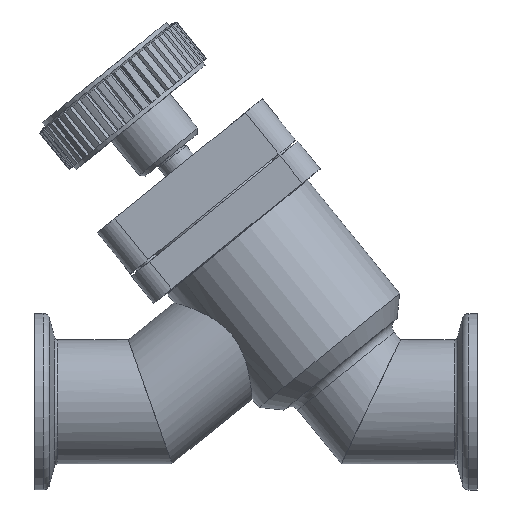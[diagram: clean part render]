
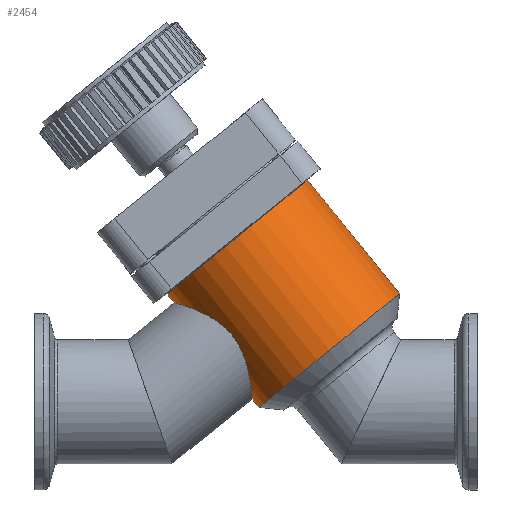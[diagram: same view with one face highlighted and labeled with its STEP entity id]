
A CAD part, top view. The second image highlights one B-rep face of the part: STEP entity #2454.
In plain terms, the highlighted cylindrical face has radius 20.45 mm (diameter 40.9 mm), a full revolution.
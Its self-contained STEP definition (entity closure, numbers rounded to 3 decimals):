
#1638=FACE_BOUND('',#3364,.T.);
#1639=FACE_BOUND('',#3365,.T.);
#1640=FACE_BOUND('',#3366,.T.);
#2109=B_SPLINE_CURVE_WITH_KNOTS('',3,(#13145,#13146,#13147,#13148,#13149,
#13150,#13151,#13152,#13153,#13154,#13155,#13156,#13157,#13158,#13159,#13160,
#13161,#13162,#13163,#13164,#13165,#13166),.UNSPECIFIED.,.T.,.F.,(2,2,2,
2,2,2,2,2,2,2,2,2,2),(-0.062,0.,0.125,0.25,0.313,0.375,0.5,
0.625,0.75,0.875,0.938,1.,1.125),.UNSPECIFIED.);
#2454=ADVANCED_FACE('',(#1638,#1639,#1640),#2627,.T.);
#2627=CYLINDRICAL_SURFACE('',#8746,20.45);
#3364=EDGE_LOOP('',(#5442));
#3365=EDGE_LOOP('',(#5443));
#3366=EDGE_LOOP('',(#5444));
#3749=CIRCLE('',#8744,20.45);
#3750=CIRCLE('',#8745,20.45);
#5442=ORIENTED_EDGE('',*,*,#7148,.F.);
#5443=ORIENTED_EDGE('',*,*,#7149,.T.);
#5444=ORIENTED_EDGE('',*,*,#7150,.F.);
#6242=VERTEX_POINT('',#13142);
#6243=VERTEX_POINT('',#13144);
#6244=VERTEX_POINT('',#13167);
#7148=EDGE_CURVE('',#6242,#6242,#3749,.T.);
#7149=EDGE_CURVE('',#6243,#6243,#3750,.T.);
#7150=EDGE_CURVE('',#6244,#6244,#2109,.T.);
#8744=AXIS2_PLACEMENT_3D('',#13141,#10502,#10503);
#8745=AXIS2_PLACEMENT_3D('',#13143,#10504,#10505);
#8746=AXIS2_PLACEMENT_3D('',#13168,#10506,#10507);
#10502=DIRECTION('',(-1.,0.,0.));
#10503=DIRECTION('',(0.,0.,1.));
#10504=DIRECTION('',(-1.,0.,0.));
#10505=DIRECTION('',(0.,0.,1.));
#10506=DIRECTION('',(-1.,0.,0.));
#10507=DIRECTION('',(0.,0.,1.));
#13141=CARTESIAN_POINT('',(21.6,0.,0.));
#13142=CARTESIAN_POINT('',(21.6,0.,20.45));
#13143=CARTESIAN_POINT('',(54.6,0.,0.));
#13144=CARTESIAN_POINT('',(54.6,0.,20.45));
#13145=CARTESIAN_POINT('',(39.799,16.185,-12.5));
#13146=CARTESIAN_POINT('',(34.702,16.185,-12.5));
#13147=CARTESIAN_POINT('',(31.539,17.352,-11.103));
#13148=CARTESIAN_POINT('',(27.037,19.505,-6.628));
#13149=CARTESIAN_POINT('',(25.614,20.442,-3.422));
#13150=CARTESIAN_POINT('',(25.593,20.454,1.637));
#13151=CARTESIAN_POINT('',(25.937,20.239,3.317));
#13152=CARTESIAN_POINT('',(27.206,19.503,6.346));
#13153=CARTESIAN_POINT('',(28.128,18.985,7.703));
#13154=CARTESIAN_POINT('',(31.493,17.371,11.076));
#13155=CARTESIAN_POINT('',(34.651,16.196,12.486));
#13156=CARTESIAN_POINT('',(41.448,16.174,12.514));
#13157=CARTESIAN_POINT('',(44.628,17.338,11.128));
#13158=CARTESIAN_POINT('',(49.165,19.504,6.634));
#13159=CARTESIAN_POINT('',(50.588,20.442,3.437));
#13160=CARTESIAN_POINT('',(50.612,20.458,-3.346));
#13161=CARTESIAN_POINT('',(49.196,19.523,-6.582));
#13162=CARTESIAN_POINT('',(45.81,17.9,-9.967));
#13163=CARTESIAN_POINT('',(44.479,17.337,-10.873));
#13164=CARTESIAN_POINT('',(41.472,16.47,-12.147));
#13165=CARTESIAN_POINT('',(39.799,16.185,-12.5));
#13166=CARTESIAN_POINT('',(34.702,16.185,-12.5));
#13167=CARTESIAN_POINT('',(38.1,16.185,-12.5));
#13168=CARTESIAN_POINT('',(0.,0.,0.));
